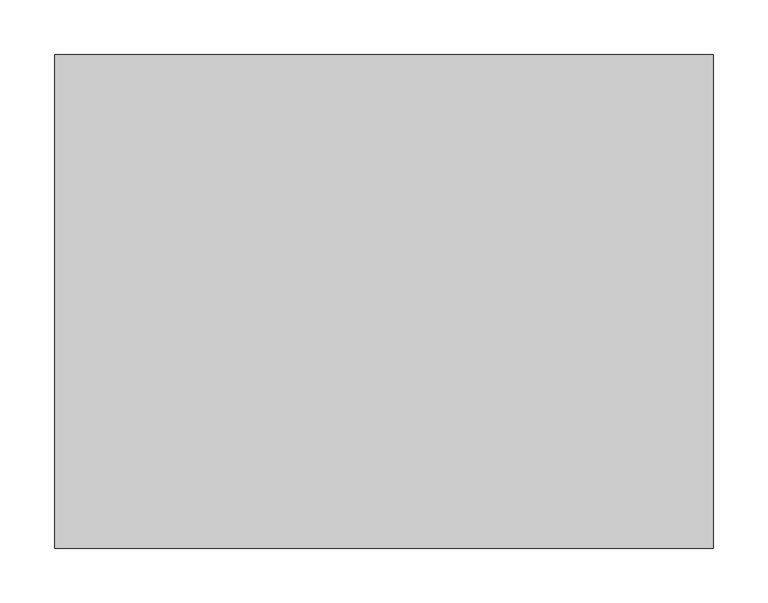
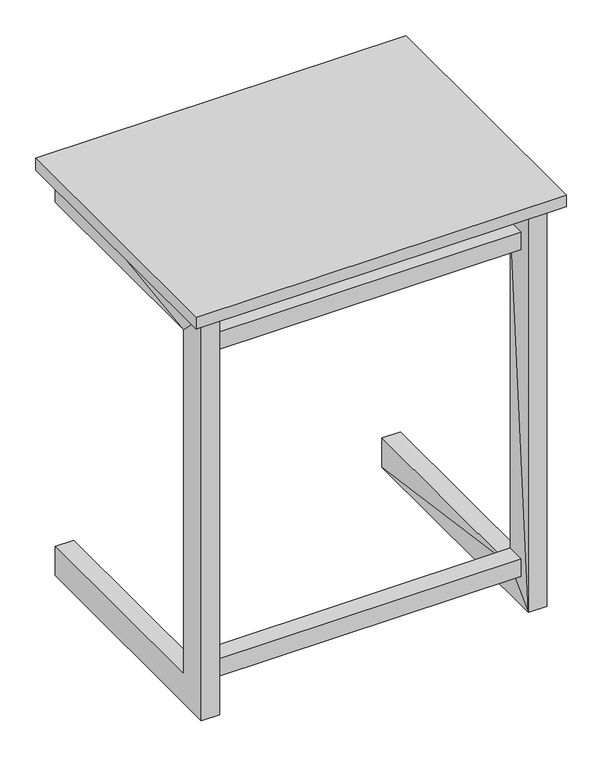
"""IFC4 building model written with IfcOpenShell, lengths in millimetres: furniture geometry, 2.1 Mesa alumno : 2.1 Mesa alumno."""

from ifc_helpers import new_model, si_unit, origin, place, context, project, spatial, faceted_brep, source, transform, mapped, element, save


def furniture_b328b4e4(model_context):
    return source(origin(), model_context, "Body", "Brep", [
        faceted_brep([(249.9699593, 205.078125, 690.002555), (249.9699593, 205.078125, 639.9997417), (-250.0293255, 205.078125, 639.9997417), (-250.0293255, 205.078125, 690.002555), (249.9699593, 175.0793457, 690.002555), (-250.0293255, 175.0793457, 690.002555), (249.9699593, 175.0793457, 639.9997417), (-250.0293255, 175.0793457, 639.9997417)], [[[0, 1, 2, 3]], [[4, 0, 3, 5]], [[6, 4, 5, 7]], [[1, 6, 7, 2]], [[2, 7, 5, 3]], [[1, 0, 4, 6]]]),
        faceted_brep([(-300.049305, -224.9298096, 710.0024167), (-300.049305, 225.0823975, 710.0024167), (-300.049305, 225.0823975, 690.0024358), (-300.049305, -224.9298096, 690.0024358), (300.0483513, 225.0823975, 710.0024167), (300.0483513, 225.0823975, 690.0024358), (300.0483513, -224.9298096, 710.0024167), (300.0483513, -224.9298096, 690.0024358)], [[[0, 1, 2, 3]], [[1, 4, 5, 2]], [[4, 6, 7, 5]], [[6, 0, 3, 7]], [[7, 3, 2, 5]], [[1, 0, 6, 4]]]),
        faceted_brep([(-249.9711514, -205.078125, 690.0023762), (-249.9704361, 205.078125, 690.0026146), (-279.9706459, 205.078125, 690.0026146), (-279.9711227, -205.078125, 690.0023762), (-249.9709129, -155.0292969, 639.9998013), (-249.9713898, 205.078125, 639.9998013), (-279.9713612, 205.078125, 639.9998013), (-279.9711227, -155.0292969, 639.9998013), (-249.9711514, -205.0800323, 0.0), (-279.9711227, -205.0800323, 0.0), (-249.9713898, -155.0312042, 50.0026364), (-279.9711227, -155.0312042, 50.0026364), (-279.9711227, 205.078125, 0.0), (-249.9713898, 205.078125, 0.0), (-279.9711227, 205.078125, 49.9999989), (-249.9713898, 205.078125, 49.9999989)], [[[0, 1, 2, 3]], [[1, 0, 4]], [[2, 1, 5, 6]], [[3, 2, 7]], [[8, 0, 3, 9]], [[4, 0, 8]], [[4, 5, 1]], [[2, 6, 7]], [[10, 4, 8]], [[11, 7, 4, 10]], [[7, 6, 5, 4]], [[12, 13, 8, 9]], [[10, 8, 13]], [[14, 12, 9, 3, 7, 11]], [[15, 14, 11, 10]], [[13, 15, 10]], [[12, 14, 15, 13]]]),
        faceted_brep([(249.9711514, -205.078125, 690.0023762), (279.9711227, -205.078125, 690.0023762), (279.9701691, 205.078125, 690.0026146), (249.9701977, 205.078125, 690.0026146), (249.9711514, -205.078125, 0.0), (279.9711227, -205.078125, 0.0), (279.9708843, -155.0292969, 639.9998013), (279.9708843, 205.078125, 639.9998013), (249.9709129, 205.078125, 639.9998013), (249.9709129, -155.0292969, 639.9998013), (279.9711227, -155.0292969, 50.0026364), (279.9708843, 205.078125, 0.0), (249.9706745, 205.078125, 0.0), (249.9711514, -155.0292969, 50.0026364), (249.9706745, 205.078125, 49.9999989), (279.9708843, 205.078125, 49.9999989)], [[[0, 1, 2, 3]], [[4, 5, 1, 0]], [[1, 6, 2]], [[2, 7, 8, 3]], [[9, 0, 3]], [[4, 0, 9]], [[5, 10, 1]], [[10, 6, 1]], [[6, 7, 2]], [[3, 8, 9]], [[11, 5, 4, 12]], [[12, 4, 13]], [[13, 4, 9]], [[10, 5, 11]], [[10, 13, 9, 6]], [[6, 9, 8, 7]], [[14, 13, 10, 15]], [[15, 10, 11]], [[11, 12, 14, 15]], [[13, 14, 12]]]),
        faceted_brep([(249.9698247, -155.0295425, 639.9997759), (249.9698355, -155.0295425, 609.9997765), (-250.0303433, -155.0296105, 609.999648), (-250.0303541, -155.0296105, 639.9996473), (249.9698346, -185.0295419, 639.9997759), (-250.0303442, -185.0296098, 639.9996473), (249.9698453, -185.0295419, 609.9997765), (-250.0303335, -185.0296098, 609.999648)], [[[0, 1, 2, 3]], [[4, 0, 3, 5]], [[6, 4, 5, 7]], [[1, 6, 7, 2]], [[2, 7, 5, 3]], [[1, 0, 4, 6]]]),
        faceted_brep([(249.9697866, -155.0295425, 80.0025824), (249.9697973, -155.0295425, 50.002583), (-250.0303815, -155.0296105, 50.0024545), (-250.0303922, -155.0296105, 80.0024538), (249.9697964, -185.0295419, 80.0025824), (-250.0303824, -185.0296098, 80.0024538), (249.9698072, -185.0295419, 50.002583), (-250.0303717, -185.0296098, 50.0024545)], [[[0, 1, 2, 3]], [[4, 0, 3, 5]], [[6, 4, 5, 7]], [[1, 6, 7, 2]], [[2, 7, 5, 3]], [[1, 0, 4, 6]]]),
    ])


if __name__ == "__main__":
    model = new_model("IFC4")
    model_context = context("Model", 3, world=origin())
    ifc_project = project(units=[si_unit("LENGTHUNIT", "METRE", prefix="MILLI")], contexts=[model_context])
    site = spatial("IfcSite", under=ifc_project)
    building = spatial("IfcBuilding", under=site)
    placement = place(None, origin())
    furniture_shape = furniture_b328b4e4(model_context)
    element("IfcFurniture", 1, ObjectType="2.1 Mesa alumno : 2.1 Mesa alumno", at=placement, inside=building, context=model_context, shape_type="MappedRepresentation", body=[
        mapped(furniture_shape, transform((0.0, 0.0, 0.0), x_axis=(1.0, 0.0, 0.0), y_axis=(0.0, 1.0, 0.0), z_axis=(0.0, 0.0, 1.0))),
    ])
    save(model, "model.ifc")
